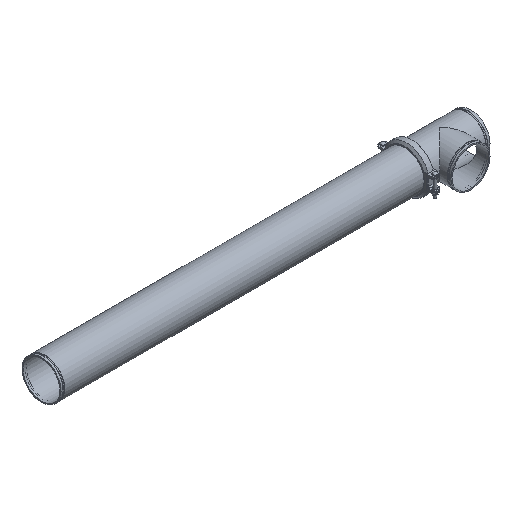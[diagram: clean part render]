
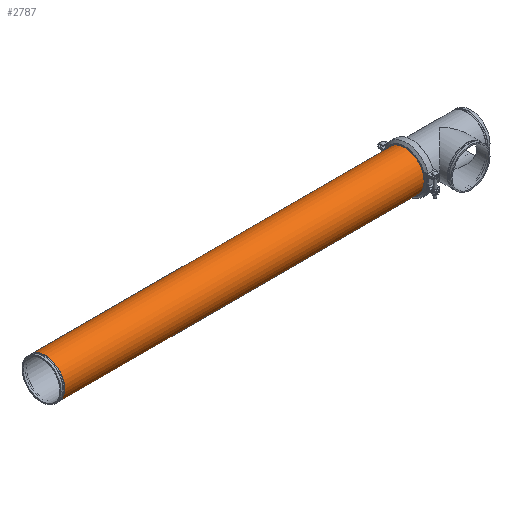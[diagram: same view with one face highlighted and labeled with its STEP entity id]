
A CAD part, isometric view. The second image highlights one B-rep face of the part: STEP entity #2787.
In plain terms, the highlighted cylindrical face has radius 161.925 mm (diameter 323.85 mm), a full revolution.
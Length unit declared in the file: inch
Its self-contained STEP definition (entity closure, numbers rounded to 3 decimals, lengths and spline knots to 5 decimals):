
#349=FACE_OUTER_BOUND('',#530,.T.);
#530=EDGE_LOOP('',(#2384,#2385,#2386,#2387,#2388,#2389));
#715=LINE('',#5439,#892);
#892=VECTOR('',#4014,6.375);
#1025=CIRCLE('',#3196,6.375);
#1026=CIRCLE('',#3197,6.375);
#1027=CIRCLE('',#3199,6.375);
#1028=CIRCLE('',#3200,6.375);
#1281=VERTEX_POINT('',#5430);
#1282=VERTEX_POINT('',#5431);
#1283=VERTEX_POINT('',#5435);
#1284=VERTEX_POINT('',#5436);
#1653=EDGE_CURVE('',#1281,#1282,#1025,.T.);
#1654=EDGE_CURVE('',#1282,#1281,#1026,.T.);
#1655=EDGE_CURVE('',#1283,#1284,#1027,.T.);
#1656=EDGE_CURVE('',#1284,#1283,#1028,.T.);
#1657=EDGE_CURVE('',#1284,#1282,#715,.T.);
#2384=ORIENTED_EDGE('',*,*,#1655,.F.);
#2385=ORIENTED_EDGE('',*,*,#1656,.F.);
#2386=ORIENTED_EDGE('',*,*,#1657,.T.);
#2387=ORIENTED_EDGE('',*,*,#1654,.T.);
#2388=ORIENTED_EDGE('',*,*,#1653,.T.);
#2389=ORIENTED_EDGE('',*,*,#1657,.F.);
#2488=CYLINDRICAL_SURFACE('',#3198,6.375);
#2787=ADVANCED_FACE('',(#349),#2488,.T.);
#3196=AXIS2_PLACEMENT_3D('',#5432,#4004,#4005);
#3197=AXIS2_PLACEMENT_3D('',#5433,#4006,#4007);
#3198=AXIS2_PLACEMENT_3D('',#5434,#4008,#4009);
#3199=AXIS2_PLACEMENT_3D('',#5437,#4010,#4011);
#3200=AXIS2_PLACEMENT_3D('',#5438,#4012,#4013);
#4004=DIRECTION('center_axis',(1.,0.,0.));
#4005=DIRECTION('ref_axis',(0.,0.,-1.));
#4006=DIRECTION('center_axis',(1.,0.,0.));
#4007=DIRECTION('ref_axis',(0.,0.,-1.));
#4008=DIRECTION('center_axis',(1.,0.,0.));
#4009=DIRECTION('ref_axis',(0.,1.,0.));
#4010=DIRECTION('center_axis',(1.,0.,0.));
#4011=DIRECTION('ref_axis',(0.,0.,-1.));
#4012=DIRECTION('center_axis',(1.,0.,0.));
#4013=DIRECTION('ref_axis',(0.,0.,-1.));
#4014=DIRECTION('',(-1.,0.,0.));
#5430=CARTESIAN_POINT('',(-58.781,6.375,0.));
#5431=CARTESIAN_POINT('',(-58.781,-6.375,0.));
#5432=CARTESIAN_POINT('Origin',(-58.781,0.,0.));
#5433=CARTESIAN_POINT('Origin',(-58.781,0.,0.));
#5434=CARTESIAN_POINT('Origin',(0.,0.,0.));
#5435=CARTESIAN_POINT('',(58.781,6.375,0.));
#5436=CARTESIAN_POINT('',(58.781,-6.375,0.));
#5437=CARTESIAN_POINT('Origin',(58.781,0.,0.));
#5438=CARTESIAN_POINT('Origin',(58.781,0.,0.));
#5439=CARTESIAN_POINT('',(0.,-6.375,0.));
